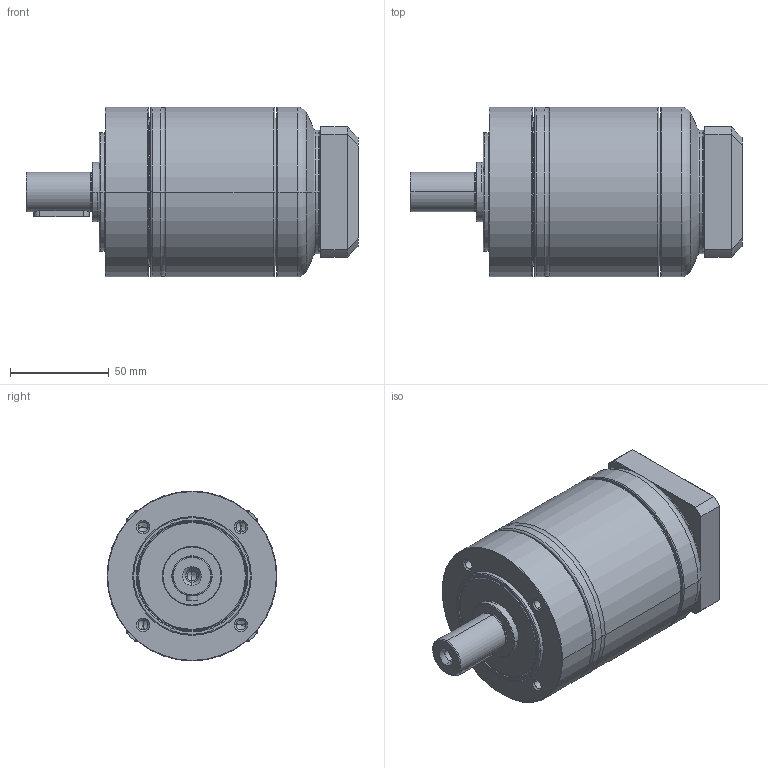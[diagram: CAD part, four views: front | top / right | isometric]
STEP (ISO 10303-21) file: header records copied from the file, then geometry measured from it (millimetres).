
FILE_DESCRIPTION((''),'2;1');
FILE_NAME('PG2-080_2ST_14-P0411300101_ASM','2016-04-13T',('d01943'),(''),'PRO/ENGINEER BY PARAMETRIC TECHNOLOGY CORPORATION, 2008410','PRO/ENGINEER BY PARAMETRIC TECHNOLOGY CORPORATION, 2008410','');
FILE_SCHEMA(('CONFIG_CONTROL_DESIGN'));
Length unit declared in the file: millimetre
Products named in the file (9): P1325310001; P0251300001; P1324300001; P0350301103; P0941300001; P0503300005; P0411300101; P1702300001; PG2-080_2ST_14-P0411300101_ASM
Assembly tree (8 placements, depth 2):
  PG2-080_2ST_14-P0411300101_ASM
    P1325310001
    P0251300001
    P1324300001
    P0350301103
    P0941300001
    P0503300005
    P0411300101
    P1702300001
Bounding box: 168 x 86 x 86 mm (x, y, z)
Volume: 503263.4 mm3; surface area: 120240 mm2
Topology: 8 solids, 9 shells, 475 faces, 1048 edges, 603 vertices
Faces by surface type: cone 142, cylinder 139, torus 98, plane 80, bspline 16
Entity records: 17513 total; most frequent: CARTESIAN_POINT 6813, DIRECTION 2439, ORIENTED_EDGE 2028, AXIS2_PLACEMENT_3D 1046, EDGE_CURVE 1014, VERTEX_POINT 603, CIRCLE 570, EDGE_LOOP 539
